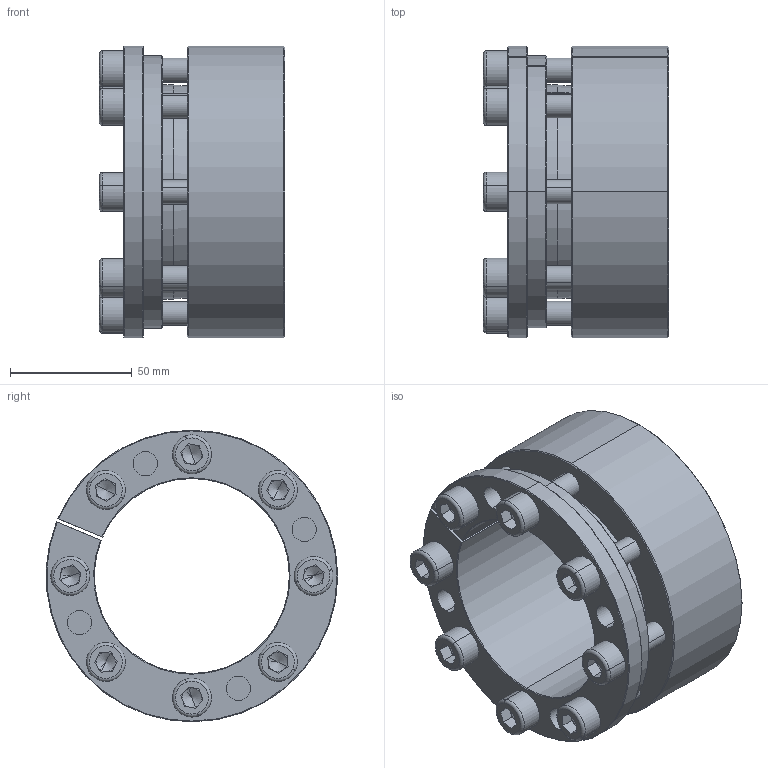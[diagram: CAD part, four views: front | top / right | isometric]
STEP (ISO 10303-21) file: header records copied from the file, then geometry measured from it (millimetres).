
FILE_DESCRIPTION (( 'STEP AP214' ), '1' );
FILE_NAME ('PL-H2 80-120.STEP', '2022-07-25T02:21:30', ( '' ), ( '' ), 'SwSTEP 2.0', 'SolidWorks 2022', '' );
FILE_SCHEMA (( 'AUTOMOTIVE_DESIGN' ));
Length unit declared in the file: millimetre
Products named in the file (1): PL-H2 80-120
Bounding box: 76.19 x 119.79 x 119.88 mm (x, y, z)
Volume: 341977.3 mm3; surface area: 87883.6 mm2
Topology: 1 solids, 1 shells, 299 faces, 733 edges, 452 vertices
Faces by surface type: plane 128, cylinder 87, cone 68, torus 16
Entity records: 8834 total; most frequent: DIRECTION 1634, CARTESIAN_POINT 1541, ORIENTED_EDGE 1434, EDGE_CURVE 717, AXIS2_PLACEMENT_3D 641, VERTEX_POINT 452, EDGE_LOOP 355, LINE 352
